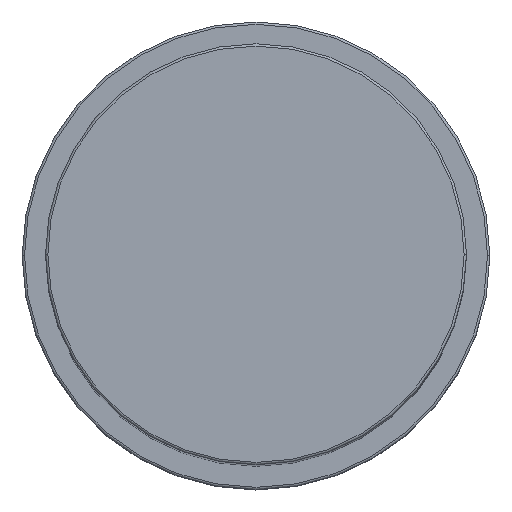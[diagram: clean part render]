
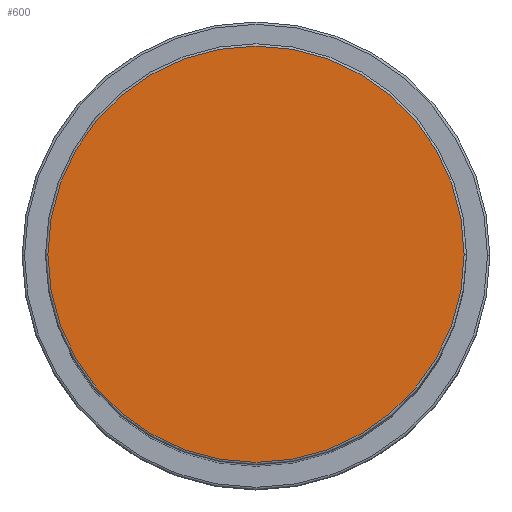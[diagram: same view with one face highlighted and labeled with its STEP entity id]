
A CAD part, top view. The second image highlights one B-rep face of the part: STEP entity #600.
In plain terms, the highlighted planar face has unit normal (0, 0, 1).
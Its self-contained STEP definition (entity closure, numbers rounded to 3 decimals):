
#97 = CIRCLE ( 'NONE', #917, 44.5 ) ;
#102 = DIRECTION ( 'NONE',  ( 1., 0., 0. ) ) ;
#117 = EDGE_LOOP ( 'NONE', ( #704, #417 ) ) ;
#122 = CARTESIAN_POINT ( 'NONE',  ( 0., 0., 214. ) ) ;
#124 = VERTEX_POINT ( 'NONE', #1302 ) ;
#213 = VERTEX_POINT ( 'NONE', #796 ) ;
#240 = CIRCLE ( 'NONE', #1148, 44.5 ) ;
#262 = DIRECTION ( 'NONE',  ( 1., 0., 0. ) ) ;
#298 = CARTESIAN_POINT ( 'NONE',  ( 0., 0., 214. ) ) ;
#399 = PLANE ( 'NONE',  #872 ) ;
#417 = ORIENTED_EDGE ( 'NONE', *, *, #1052, .T. ) ;
#541 = DIRECTION ( 'NONE',  ( 1., 0., 0. ) ) ;
#600 = ADVANCED_FACE ( 'NONE', ( #1469 ), #399, .T. ) ;
#627 = CARTESIAN_POINT ( 'NONE',  ( 0., 0., 214. ) ) ;
#639 = DIRECTION ( 'NONE',  ( 0., 0., 1. ) ) ;
#704 = ORIENTED_EDGE ( 'NONE', *, *, #1486, .T. ) ;
#796 = CARTESIAN_POINT ( 'NONE',  ( -44.5, 0., 214. ) ) ;
#815 = DIRECTION ( 'NONE',  ( 0., 0., 1. ) ) ;
#872 = AXIS2_PLACEMENT_3D ( 'NONE', #122, #639, #262 ) ;
#917 = AXIS2_PLACEMENT_3D ( 'NONE', #627, #1370, #102 ) ;
#1052 = EDGE_CURVE ( 'NONE', #213, #124, #240, .T. ) ;
#1148 = AXIS2_PLACEMENT_3D ( 'NONE', #298, #815, #541 ) ;
#1302 = CARTESIAN_POINT ( 'NONE',  ( 44.5, 0., 214. ) ) ;
#1370 = DIRECTION ( 'NONE',  ( 0., 0., 1. ) ) ;
#1469 = FACE_OUTER_BOUND ( 'NONE', #117, .T. ) ;
#1486 = EDGE_CURVE ( 'NONE', #124, #213, #97, .T. ) ;
